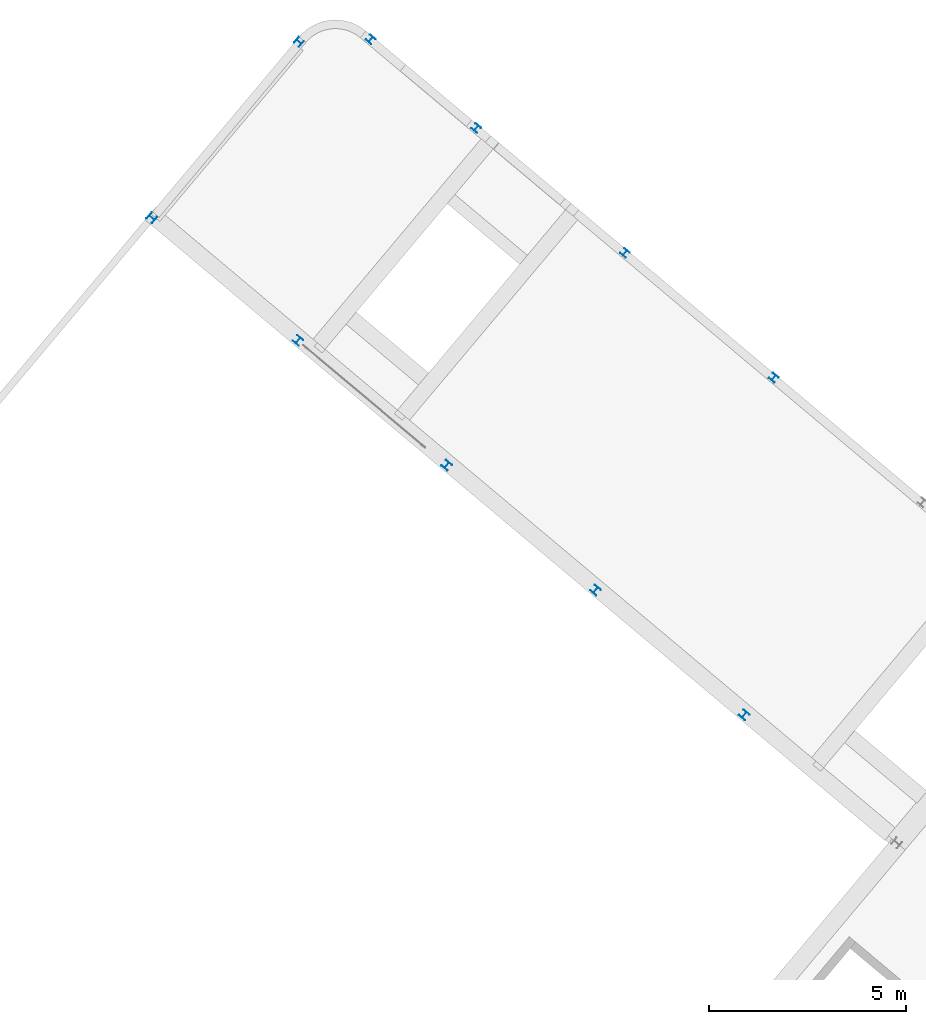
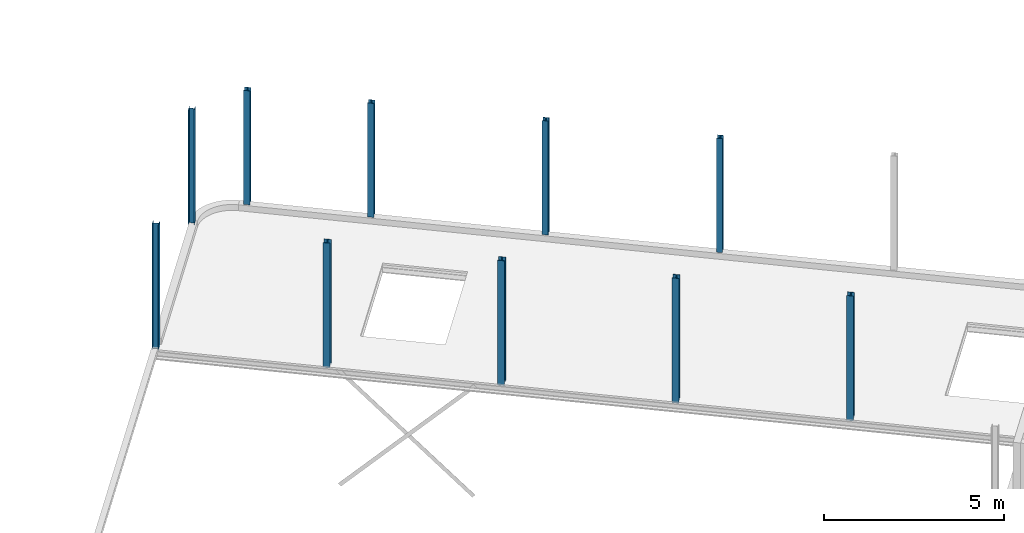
# One storey, part 3 of 11: 10 columns.
"""IFC2X3 building model written with IfcOpenShell, lengths in millimetres."""

from ifc_helpers import new_model, entity, si_unit, converted_unit, derived_unit, direction, frame, frame_2d, origin, origin_2d_with_axis, place, context, subcontext, project, spatial, i_section, extrude, source, transform, mapped, material, type_object, type_shapes, element, save


model = new_model("IFC2X3")

# Units and contexts
model_context = context("Model", 3, precision=0.01, world=origin(), true_north=direction((6.123031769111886e-17, 1.0)))
body_context = subcontext(model_context, "Body", "Model", "MODEL_VIEW")
ifc_project = project(units=[si_unit("LENGTHUNIT", "METRE", prefix="MILLI"), si_unit("AREAUNIT", "SQUARE_METRE"), si_unit("VOLUMEUNIT", "CUBIC_METRE"), derived_unit("MASSDENSITYUNIT", [(si_unit("MASSUNIT", "GRAM", prefix="KILO"), 1), (si_unit("LENGTHUNIT", "METRE"), -3)]), si_unit("MASSUNIT", "GRAM", prefix="KILO"), converted_unit("PLANEANGLEUNIT", "DEGREE", entity("IfcPlaneAngleMeasure", 0.017453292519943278), si_unit("PLANEANGLEUNIT", "RADIAN"), dimensions=[0, 0, 0, 0, 0, 0, 0])], contexts=[model_context])

# Site, building, storey
site_placement = place(None, origin())
site = spatial("IfcSite", under=ifc_project, at=site_placement, Name="Default", CompositionType="ELEMENT")
building_placement = place(site_placement, origin())
building = spatial("IfcBuilding", under=site, at=building_placement, Name="AT constructie", CompositionType="ELEMENT")
storey_placement = place(building_placement, frame((0.0, 0.0, 7728.0)))
storey = spatial("IfcBuildingStorey", under=building, at=storey_placement, Name="02 tweede verdieping", CompositionType="ELEMENT", Elevation=7728.0)

# Columns
ifc_material = material(Name="h2_staal_S355")
column_type_1 = type_object("IfcColumnType", Name="kolom_gen_HEA200", PredefinedType="COLUMN", material=ifc_material)
shared_shape_1 = source(origin(), body_context, "Body", "SweptSolid", [
    extrude(i_section(OverallWidth=199.9999999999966, OverallDepth=190.00000000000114, WebThickness=6.500000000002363, FlangeThickness=9.999999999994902, FilletRadius=18.0, at=origin_2d_with_axis()), frame((35590.41380752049, 40581.91976705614, 7618.0), z_axis=(0.0, 0.0, 1.0), x_axis=(0.766044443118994, -0.6427876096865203, 0.0)), (0.0, 0.0, 1.0), 4244.999999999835),
])
type_shapes(column_type_1, [shared_shape_1])
column_1_placement = place(storey_placement, frame((0.0, 0.0, -7728.0)))
element("IfcColumn", 1, at=column_1_placement, inside=storey, type_object=column_type_1, material=ifc_material, Name="NLRS_28_SC_TLB_kolom HEA_gen_AT:kolom_gen_HEA200", ObjectType="NLRS_28_SC_TLB_kolom HEA_gen_AT:kolom_gen_HEA200", context=body_context, shape_type="MappedRepresentation", body=[
    mapped(shared_shape_1, transform((0.0, 0.0, 0.0), scale=1.0)),
])
column_type_2 = type_object("IfcColumnType", Name="kolom_gen_HEA200", PredefinedType="COLUMN", material=ifc_material)
shared_shape_2 = source(origin(), body_context, "Body", "SweptSolid", [
    extrude(i_section(OverallWidth=199.9999999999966, OverallDepth=190.00000000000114, WebThickness=6.500000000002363, FlangeThickness=9.999999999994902, FilletRadius=18.0, at=origin_2d_with_axis()), frame((28037.215598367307, 46919.8055985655, 7618.0), z_axis=(0.0, 0.0, 1.0), x_axis=(0.766044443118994, -0.6427876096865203, 0.0)), (0.0, 0.0, 1.0), 4244.999999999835),
])
type_shapes(column_type_2, [shared_shape_2])
column_2_placement = place(storey_placement, frame((0.0, 0.0, -7728.0)))
element("IfcColumn", 2, at=column_2_placement, inside=storey, type_object=column_type_2, material=ifc_material, Name="NLRS_28_SC_TLB_kolom HEA_gen_AT:kolom_gen_HEA200", ObjectType="NLRS_28_SC_TLB_kolom HEA_gen_AT:kolom_gen_HEA200", context=body_context, shape_type="MappedRepresentation", body=[
    mapped(shared_shape_2, transform((0.0, 0.0, 0.0), scale=1.0)),
])
column_type_3 = type_object("IfcColumnType", Name="kolom_gen_HEA200", PredefinedType="COLUMN", material=ifc_material)
shared_shape_3 = source(origin(), body_context, "Body", "SweptSolid", [
    extrude(i_section(OverallWidth=199.9999999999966, OverallDepth=190.00000000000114, WebThickness=6.500000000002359, FlangeThickness=9.999999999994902, FilletRadius=18.0, at=frame_2d((-2.2453150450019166e-12, 9.414691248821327e-12), x_axis=(1.0, 0.0))), frame((24260.616493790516, 50088.74851432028, 7618.0), z_axis=(0.0, 0.0, 1.0), x_axis=(0.766044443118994, -0.6427876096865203, 0.0)), (0.0, 0.0, 1.0), 4244.999999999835),
])
type_shapes(column_type_3, [shared_shape_3])
column_3_placement = place(storey_placement, frame((0.0, 0.0, -7728.0)))
element("IfcColumn", 3, at=column_3_placement, inside=storey, type_object=column_type_3, material=ifc_material, Name="NLRS_28_SC_TLB_kolom HEA_gen_AT:kolom_gen_HEA200", ObjectType="NLRS_28_SC_TLB_kolom HEA_gen_AT:kolom_gen_HEA200", context=body_context, shape_type="MappedRepresentation", body=[
    mapped(shared_shape_3, transform((0.0, 0.0, 0.0), scale=1.0)),
])
column_type_4 = type_object("IfcColumnType", Name="kolom_gen_HEA200", PredefinedType="COLUMN", material=ifc_material)
shared_shape_4 = source(origin(), body_context, "Body", "SweptSolid", [
    extrude(i_section(OverallWidth=199.9999999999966, OverallDepth=190.00000000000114, WebThickness=6.5000000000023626, FlangeThickness=9.999999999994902, FilletRadius=18.0, at=frame_2d((3.311129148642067e-12, 2.7782220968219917e-12), x_axis=(1.0, 0.0))), frame((31813.814702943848, 43750.862682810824, 7618.0), z_axis=(0.0, 0.0, 1.0), x_axis=(0.766044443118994, -0.6427876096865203, 0.0)), (0.0, 0.0, 1.0), 4244.999999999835),
])
type_shapes(column_type_4, [shared_shape_4])
column_4_placement = place(storey_placement, frame((0.0, 0.0, -7728.0)))
element("IfcColumn", 4, at=column_4_placement, inside=storey, type_object=column_type_4, material=ifc_material, Name="NLRS_28_SC_TLB_kolom HEA_gen_AT:kolom_gen_HEA200", ObjectType="NLRS_28_SC_TLB_kolom HEA_gen_AT:kolom_gen_HEA200", context=body_context, shape_type="MappedRepresentation", body=[
    mapped(shared_shape_4, transform((0.0, 0.0, 0.0), scale=1.0)),
])
column_type_5 = type_object("IfcColumnType", Name="kolom_gen_HEA180", PredefinedType="COLUMN", material=ifc_material)
shared_shape_5 = source(origin(), body_context, "Body", "SweptSolid", [
    extrude(i_section(OverallWidth=180.00000000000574, OverallDepth=170.99999999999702, WebThickness=5.999999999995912, FlangeThickness=9.500000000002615, FilletRadius=15.000000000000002, at=frame_2d((2.7853275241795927e-12, -3.318234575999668e-12), x_axis=(1.0, 0.0))), frame((32562.118976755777, 52312.37545590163, 7878.0), z_axis=(0.0, 0.0, 1.0), x_axis=(0.7660444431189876, -0.642787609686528, 0.0)), (0.0, 0.0, 1.0), 3872.999999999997),
])
type_shapes(column_type_5, [shared_shape_5])
column_5_placement = place(storey_placement, frame((0.0, 0.0, -7728.0)))
element("IfcColumn", 5, at=column_5_placement, inside=storey, type_object=column_type_5, material=ifc_material, Name="NLRS_28_SC_TLB_kolom HEA_gen_AT:kolom_gen_HEA180", ObjectType="NLRS_28_SC_TLB_kolom HEA_gen_AT:kolom_gen_HEA180", context=body_context, shape_type="MappedRepresentation", body=[
    mapped(shared_shape_5, transform((0.0, 0.0, 0.0), scale=1.0)),
])
column_type_6 = type_object("IfcColumnType", Name="kolom_gen_HEA180", PredefinedType="COLUMN", material=ifc_material)
shared_shape_6 = source(origin(), body_context, "Body", "SweptSolid", [
    extrude(i_section(OverallWidth=180.00000000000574, OverallDepth=170.999999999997, WebThickness=5.999999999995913, FlangeThickness=9.500000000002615, FilletRadius=15.000000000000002, at=frame_2d((6.0964566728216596e-12, -5.329070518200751e-13), x_axis=(1.0, 0.0))), frame((28785.519872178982, 55481.31837165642, 7878.0), z_axis=(0.0, 0.0, 1.0), x_axis=(0.7660444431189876, -0.642787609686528, 0.0)), (0.0, 0.0, 1.0), 3872.999999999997),
])
type_shapes(column_type_6, [shared_shape_6])
column_6_placement = place(storey_placement, frame((0.0, 0.0, -7728.0)))
element("IfcColumn", 6, at=column_6_placement, inside=storey, type_object=column_type_6, material=ifc_material, Name="NLRS_28_SC_TLB_kolom HEA_gen_AT:kolom_gen_HEA180", ObjectType="NLRS_28_SC_TLB_kolom HEA_gen_AT:kolom_gen_HEA180", context=body_context, shape_type="MappedRepresentation", body=[
    mapped(shared_shape_6, transform((0.0, 0.0, 0.0), scale=1.0)),
])
column_type_7 = type_object("IfcColumnType", Name="kolom_gen_HEA180", PredefinedType="COLUMN", material=ifc_material)
shared_shape_7 = source(origin(), body_context, "Body", "SweptSolid", [
    extrude(i_section(OverallWidth=180.00000000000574, OverallDepth=170.99999999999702, WebThickness=5.999999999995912, FlangeThickness=9.500000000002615, FilletRadius=15.000000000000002, at=frame_2d((2.7853275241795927e-12, -3.318234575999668e-12), x_axis=(1.0, 0.0))), frame((36338.71808133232, 49143.432540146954, 7878.0), z_axis=(0.0, 0.0, 1.0), x_axis=(0.7660444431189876, -0.642787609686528, 0.0)), (0.0, 0.0, 1.0), 3872.999999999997),
])
type_shapes(column_type_7, [shared_shape_7])
column_7_placement = place(storey_placement, frame((0.0, 0.0, -7728.0)))
element("IfcColumn", 7, at=column_7_placement, inside=storey, type_object=column_type_7, material=ifc_material, Name="NLRS_28_SC_TLB_kolom HEA_gen_AT:kolom_gen_HEA180", ObjectType="NLRS_28_SC_TLB_kolom HEA_gen_AT:kolom_gen_HEA180", context=body_context, shape_type="MappedRepresentation", body=[
    mapped(shared_shape_7, transform((0.0, 0.0, 0.0), scale=1.0)),
])
column_type_8 = type_object("IfcColumnType", Name="kolom_gen_HEA180", PredefinedType="COLUMN", material=ifc_material)
shared_shape_8 = source(origin(), body_context, "Body", "SweptSolid", [
    extrude(i_section(OverallWidth=180.00000000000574, OverallDepth=170.99999999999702, WebThickness=5.999999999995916, FlangeThickness=9.500000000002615, FilletRadius=15.000000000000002, at=frame_2d((8.363087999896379e-12, -9.961809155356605e-12), x_axis=(1.0, 0.0))), frame((26104.364321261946, 57731.07500555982, 7878.0), z_axis=(0.0, 0.0, 1.0), x_axis=(0.7660444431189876, -0.642787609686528, 0.0)), (0.0, 0.0, 1.0), 3872.999999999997),
])
type_shapes(column_type_8, [shared_shape_8])
column_8_placement = place(storey_placement, frame((0.0, 0.0, -7728.0)))
element("IfcColumn", 8, at=column_8_placement, inside=storey, type_object=column_type_8, material=ifc_material, Name="NLRS_28_SC_TLB_kolom HEA_gen_AT:kolom_gen_HEA180", ObjectType="NLRS_28_SC_TLB_kolom HEA_gen_AT:kolom_gen_HEA180", context=body_context, shape_type="MappedRepresentation", body=[
    mapped(shared_shape_8, transform((0.0, 0.0, 0.0), scale=1.0)),
])
column_type_9 = type_object("IfcColumnType", Name="kolom_gen_HEA180", PredefinedType="COLUMN", material=ifc_material)
shared_shape_9 = source(origin(), body_context, "Body", "SweptSolid", [
    extrude(i_section(OverallWidth=179.99999999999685, OverallDepth=171.00000000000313, WebThickness=6.000000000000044, FlangeThickness=9.499999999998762, FilletRadius=15.000000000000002, at=frame_2d((6.636469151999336e-12, 5.5706550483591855e-12), x_axis=(1.0, 0.0))), frame((24284.96949763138, 57670.03261163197, 7878.0), z_axis=(0.0, 0.0, 1.0), x_axis=(0.642787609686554, 0.7660444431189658, 0.0)), (0.0, 0.0, 1.0), 3892.999999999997),
])
type_shapes(column_type_9, [shared_shape_9])
column_9_placement = place(storey_placement, frame((0.0, 0.0, -7728.0)))
element("IfcColumn", 9, at=column_9_placement, inside=storey, type_object=column_type_9, material=ifc_material, Name="NLRS_28_SC_TLB_kolom HEA_gen_AT:kolom_gen_HEA180", ObjectType="NLRS_28_SC_TLB_kolom HEA_gen_AT:kolom_gen_HEA180", context=body_context, shape_type="MappedRepresentation", body=[
    mapped(shared_shape_9, transform((0.0, 0.0, 0.0), scale=1.0)),
])
column_type_10 = type_object("IfcColumnType", Name="kolom_gen_HEA200", PredefinedType="COLUMN", material=ifc_material)
shared_shape_10 = source(origin(), body_context, "Body", "SweptSolid", [
    extrude(i_section(OverallWidth=199.99999999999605, OverallDepth=189.9999999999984, WebThickness=6.499999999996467, FlangeThickness=9.999999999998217, FilletRadius=18.0, at=frame_2d((6.629363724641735e-12, 5.5635496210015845e-12), x_axis=(1.0, 0.0))), frame((20549.13116687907, 53203.05448325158, 7618.0), z_axis=(0.0, 0.0, 1.0), x_axis=(0.6427876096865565, 0.7660444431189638, 0.0)), (0.0, 0.0, 1.0), 4266.899999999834),
])
type_shapes(column_type_10, [shared_shape_10])
column_10_placement = place(storey_placement, frame((0.0, 0.0, -7728.0)))
element("IfcColumn", 10, at=column_10_placement, inside=storey, type_object=column_type_10, material=ifc_material, Name="NLRS_28_SC_TLB_kolom HEA_gen_AT:kolom_gen_HEA200", ObjectType="NLRS_28_SC_TLB_kolom HEA_gen_AT:kolom_gen_HEA200", context=body_context, shape_type="MappedRepresentation", body=[
    mapped(shared_shape_10, transform((0.0, 0.0, 0.0), scale=1.0)),
])

save(model, "model.ifc")
